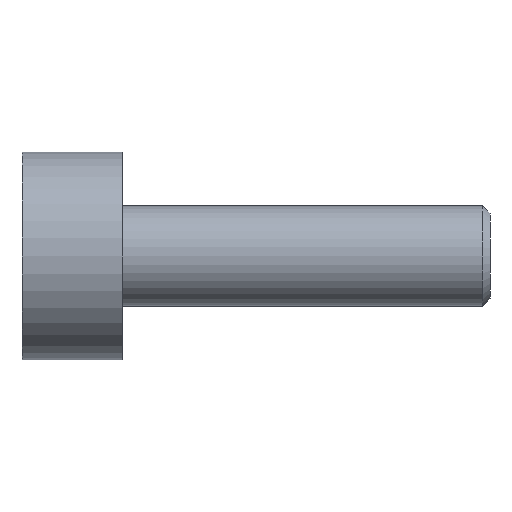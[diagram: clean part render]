
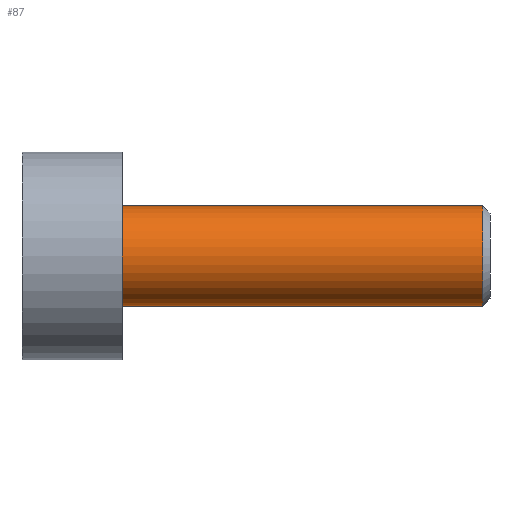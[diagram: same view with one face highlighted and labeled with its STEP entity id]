
A CAD part, front view. The second image highlights one B-rep face of the part: STEP entity #87.
In plain terms, the highlighted cylindrical face has radius 1.5 mm (diameter 3 mm), a full revolution.
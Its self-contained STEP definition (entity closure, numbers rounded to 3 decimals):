
#87 = ADVANCED_FACE( '', ( #153, #154 ), #155, .T. );
#153 = FACE_OUTER_BOUND( '', #254, .T. );
#154 = FACE_OUTER_BOUND( '', #255, .T. );
#155 = CYLINDRICAL_SURFACE( '', #256, 1.5 );
#254 = EDGE_LOOP( '', ( #433 ) );
#255 = EDGE_LOOP( '', ( #434 ) );
#256 = AXIS2_PLACEMENT_3D( '', #435, #436, #437 );
#433 = ORIENTED_EDGE( '', *, *, #735, .F. );
#434 = ORIENTED_EDGE( '', *, *, #736, .T. );
#435 = CARTESIAN_POINT( '', ( 11., 0., 0. ) );
#436 = DIRECTION( '', ( -1., 0., 0. ) );
#437 = DIRECTION( '', ( 0., 0., -1. ) );
#735 = EDGE_CURVE( '', #891, #891, #892, .T. );
#736 = EDGE_CURVE( '', #893, #893, #894, .T. );
#891 = VERTEX_POINT( '', #1106 );
#892 = CIRCLE( '', #1107, 1.5 );
#893 = VERTEX_POINT( '', #1108 );
#894 = CIRCLE( '', #1109, 1.5 );
#1106 = CARTESIAN_POINT( '', ( 10.786, 0., -1.5 ) );
#1107 = AXIS2_PLACEMENT_3D( '', #1338, #1339, #1340 );
#1108 = CARTESIAN_POINT( '', ( 0., 0., -1.5 ) );
#1109 = AXIS2_PLACEMENT_3D( '', #1341, #1342, #1343 );
#1338 = CARTESIAN_POINT( '', ( 10.786, 0., 0. ) );
#1339 = DIRECTION( '', ( 1., 0., 0. ) );
#1340 = DIRECTION( '', ( 0., 0., -1. ) );
#1341 = CARTESIAN_POINT( '', ( 0., 0., 0. ) );
#1342 = DIRECTION( '', ( 1., 0., 0. ) );
#1343 = DIRECTION( '', ( 0., 0., -1. ) );
